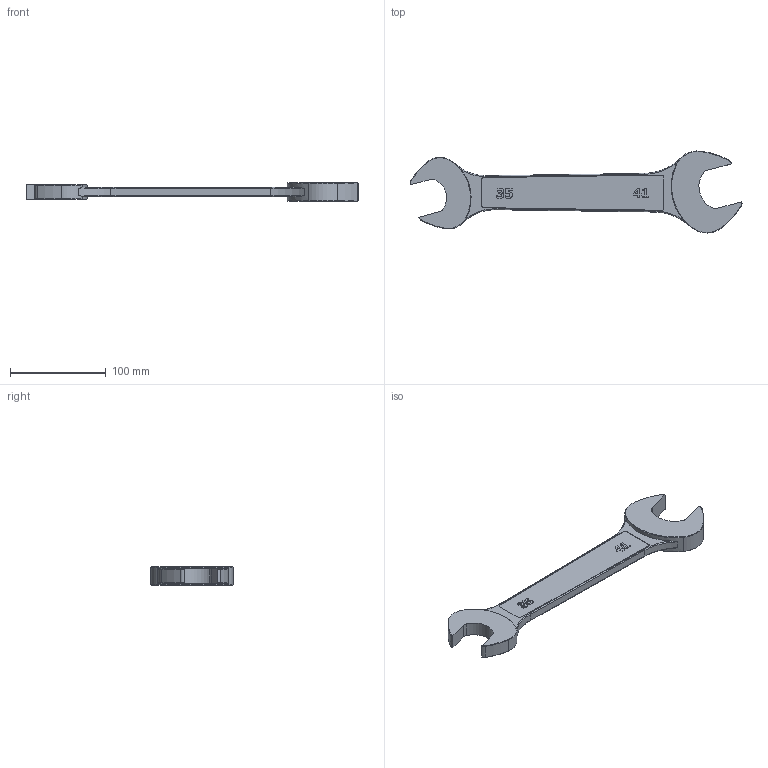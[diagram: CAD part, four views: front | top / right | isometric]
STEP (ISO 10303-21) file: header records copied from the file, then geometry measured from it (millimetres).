
FILE_DESCRIPTION(/* description */ (''),/* implementation_level */ '2;1');
FILE_NAME(/* name */ 'C:\Users\D\Documents\Inventor\各種小物\JIS\02-分解工具\両口スパナ\投稿用\35-41※.stp',/* time_stamp */ '2022-04-20T16:28:46+09:00',/* author */ ('D'),/* organization */ (''),/* preprocessor_version */ 'ST-DEVELOPER v18',/* originating_system */ 'Autodesk Inventor 2020',/* authorisation */ '');
FILE_SCHEMA (('AUTOMOTIVE_DESIGN { 1 0 10303 214 3 1 1 }'));
Length unit declared in the file: millimetre
Products named in the file (1): 17-19
Bounding box: 346.7 x 85.72 x 19 mm (x, y, z)
Volume: 177593.7 mm3; surface area: 41509.4 mm2
Topology: 1 solids, 1 shells, 165 faces, 439 edges, 282 vertices
Faces by surface type: plane 62, bspline 35, cylinder 32, cone 28, torus 8
Entity records: 5473 total; most frequent: CARTESIAN_POINT 1495, ORIENTED_EDGE 878, DIRECTION 731, EDGE_CURVE 439, VERTEX_POINT 282, LINE 253, VECTOR 253, AXIS2_PLACEMENT_3D 239
